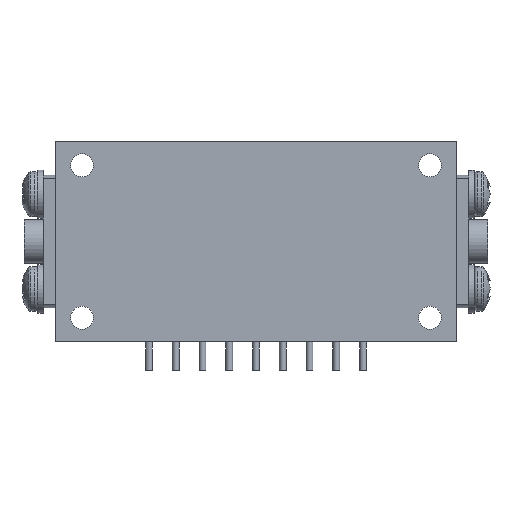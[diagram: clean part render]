
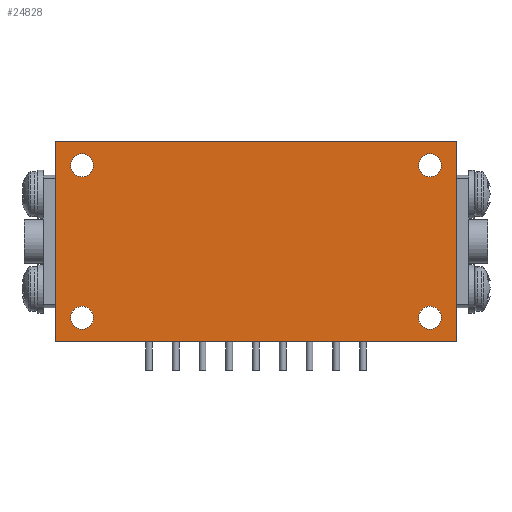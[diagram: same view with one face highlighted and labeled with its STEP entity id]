
A CAD part, front view. The second image highlights one B-rep face of the part: STEP entity #24828.
In plain terms, the highlighted planar face has unit normal (0, -1, 0).
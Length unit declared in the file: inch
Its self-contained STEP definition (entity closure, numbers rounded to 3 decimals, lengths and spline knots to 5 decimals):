
#94 = FACE_BOUND ( 'NONE', #22319, .T. ) ;
#304 = DIRECTION ( 'NONE',  ( 0., 1., 0. ) ) ;
#434 = CARTESIAN_POINT ( 'NONE',  ( 38.75386, 40.63401, 39.5006 ) ) ;
#2154 = VERTEX_POINT ( 'NONE', #12318 ) ;
#2201 = AXIS2_PLACEMENT_3D ( 'NONE', #32576, #304, #12034 ) ;
#2488 = CARTESIAN_POINT ( 'NONE',  ( 37.35386, 40.63401, 38.7976 ) ) ;
#2809 = VERTEX_POINT ( 'NONE', #14524 ) ;
#2962 = EDGE_CURVE ( 'NONE', #17249, #2154, #34929, .T. ) ;
#5021 = CARTESIAN_POINT ( 'NONE',  ( 37.35386, 40.63401, 39.5476 ) ) ;
#6007 = LINE ( 'NONE', #23119, #20663 ) ;
#6437 = ORIENTED_EDGE ( 'NONE', *, *, #13365, .T. ) ;
#7095 = CARTESIAN_POINT ( 'NONE',  ( 38.85386, 40.63401, 39.5476 ) ) ;
#7454 = DIRECTION ( 'NONE',  ( 0., 1., 0. ) ) ;
#8451 = CARTESIAN_POINT ( 'NONE',  ( 38.75386, 40.63401, 38.8876 ) ) ;
#8610 = AXIS2_PLACEMENT_3D ( 'NONE', #18313, #9891, #9115 ) ;
#9115 = DIRECTION ( 'NONE',  ( 0., 0., 1. ) ) ;
#9653 = ORIENTED_EDGE ( 'NONE', *, *, #18645, .T. ) ;
#9891 = DIRECTION ( 'NONE',  ( 0., 1., 0. ) ) ;
#11810 = FACE_BOUND ( 'NONE', #15633, .T. ) ;
#11894 = EDGE_CURVE ( 'NONE', #21551, #21551, #18749, .T. ) ;
#12034 = DIRECTION ( 'NONE',  ( 0., 0., 1. ) ) ;
#12318 = CARTESIAN_POINT ( 'NONE',  ( 37.35386, 40.63401, 39.5476 ) ) ;
#12719 = CARTESIAN_POINT ( 'NONE',  ( 37.45386, 40.63401, 38.9306 ) ) ;
#13365 = EDGE_CURVE ( 'NONE', #26784, #26784, #36555, .T. ) ;
#13575 = DIRECTION ( 'NONE',  ( 0., 0., 1. ) ) ;
#13675 = VERTEX_POINT ( 'NONE', #19683 ) ;
#13866 = CIRCLE ( 'NONE', #28018, 0.043 ) ;
#14071 = LINE ( 'NONE', #5021, #35579 ) ;
#14524 = CARTESIAN_POINT ( 'NONE',  ( 38.75386, 40.63401, 38.9306 ) ) ;
#14689 = FACE_BOUND ( 'NONE', #18540, .T. ) ;
#15474 = ORIENTED_EDGE ( 'NONE', *, *, #34886, .T. ) ;
#15633 = EDGE_LOOP ( 'NONE', ( #9653 ) ) ;
#15821 = ORIENTED_EDGE ( 'NONE', *, *, #36484, .F. ) ;
#15834 = EDGE_CURVE ( 'NONE', #2154, #17603, #14071, .T. ) ;
#16688 = VERTEX_POINT ( 'NONE', #28409 ) ;
#16914 = DIRECTION ( 'NONE',  ( 0., 1., 0. ) ) ;
#17249 = VERTEX_POINT ( 'NONE', #32244 ) ;
#17524 = DIRECTION ( 'NONE',  ( 1., 0., 0. ) ) ;
#17603 = VERTEX_POINT ( 'NONE', #7095 ) ;
#17749 = ORIENTED_EDGE ( 'NONE', *, *, #15834, .F. ) ;
#18313 = CARTESIAN_POINT ( 'NONE',  ( 38.10386, 40.63401, 39.1726 ) ) ;
#18476 = DIRECTION ( 'NONE',  ( 0., 0., -1. ) ) ;
#18540 = EDGE_LOOP ( 'NONE', ( #19868 ) ) ;
#18645 = EDGE_CURVE ( 'NONE', #16688, #16688, #37615, .T. ) ;
#18749 = CIRCLE ( 'NONE', #2201, 0.043 ) ;
#18902 = EDGE_LOOP ( 'NONE', ( #15474 ) ) ;
#19683 = CARTESIAN_POINT ( 'NONE',  ( 38.85386, 40.63401, 38.7976 ) ) ;
#19868 = ORIENTED_EDGE ( 'NONE', *, *, #11894, .T. ) ;
#20171 = DIRECTION ( 'NONE',  ( 0., 0., 1. ) ) ;
#20663 = VECTOR ( 'NONE', #35188, 39.37008 ) ;
#21386 = FACE_OUTER_BOUND ( 'NONE', #23381, .T. ) ;
#21551 = VERTEX_POINT ( 'NONE', #12719 ) ;
#21856 = CARTESIAN_POINT ( 'NONE',  ( 38.75386, 40.63401, 39.4576 ) ) ;
#22319 = EDGE_LOOP ( 'NONE', ( #6437 ) ) ;
#23103 = AXIS2_PLACEMENT_3D ( 'NONE', #21856, #7454, #13575 ) ;
#23119 = CARTESIAN_POINT ( 'NONE',  ( 37.35386, 40.63401, 38.7976 ) ) ;
#23381 = EDGE_LOOP ( 'NONE', ( #34890, #15821, #31909, #17749 ) ) ;
#24828 = ADVANCED_FACE ( 'NONE', ( #14689, #26422, #94, #11810, #21386 ), #32537, .F. ) ;
#25595 = DIRECTION ( 'NONE',  ( 0., 0., 1. ) ) ;
#25928 = DIRECTION ( 'NONE',  ( 0., 0., 1. ) ) ;
#26422 = FACE_BOUND ( 'NONE', #18902, .T. ) ;
#26612 = AXIS2_PLACEMENT_3D ( 'NONE', #31318, #28460, #25595 ) ;
#26784 = VERTEX_POINT ( 'NONE', #434 ) ;
#28018 = AXIS2_PLACEMENT_3D ( 'NONE', #8451, #16914, #20171 ) ;
#28409 = CARTESIAN_POINT ( 'NONE',  ( 37.45386, 40.63401, 39.5006 ) ) ;
#28460 = DIRECTION ( 'NONE',  ( 0., 1., 0. ) ) ;
#30003 = CARTESIAN_POINT ( 'NONE',  ( 38.85386, 40.63401, 38.7976 ) ) ;
#30348 = VECTOR ( 'NONE', #25928, 39.37008 ) ;
#31318 = CARTESIAN_POINT ( 'NONE',  ( 37.45386, 40.63401, 39.4576 ) ) ;
#31909 = ORIENTED_EDGE ( 'NONE', *, *, #35800, .F. ) ;
#32244 = CARTESIAN_POINT ( 'NONE',  ( 37.35386, 40.63401, 38.7976 ) ) ;
#32537 = PLANE ( 'NONE',  #8610 ) ;
#32576 = CARTESIAN_POINT ( 'NONE',  ( 37.45386, 40.63401, 38.8876 ) ) ;
#34886 = EDGE_CURVE ( 'NONE', #2809, #2809, #13866, .T. ) ;
#34890 = ORIENTED_EDGE ( 'NONE', *, *, #2962, .F. ) ;
#34929 = LINE ( 'NONE', #2488, #30348 ) ;
#35188 = DIRECTION ( 'NONE',  ( -1., 0., 0. ) ) ;
#35566 = LINE ( 'NONE', #30003, #37143 ) ;
#35579 = VECTOR ( 'NONE', #17524, 39.37008 ) ;
#35800 = EDGE_CURVE ( 'NONE', #17603, #13675, #35566, .T. ) ;
#36484 = EDGE_CURVE ( 'NONE', #13675, #17249, #6007, .T. ) ;
#36555 = CIRCLE ( 'NONE', #23103, 0.043 ) ;
#37143 = VECTOR ( 'NONE', #18476, 39.37008 ) ;
#37615 = CIRCLE ( 'NONE', #26612, 0.043 ) ;
